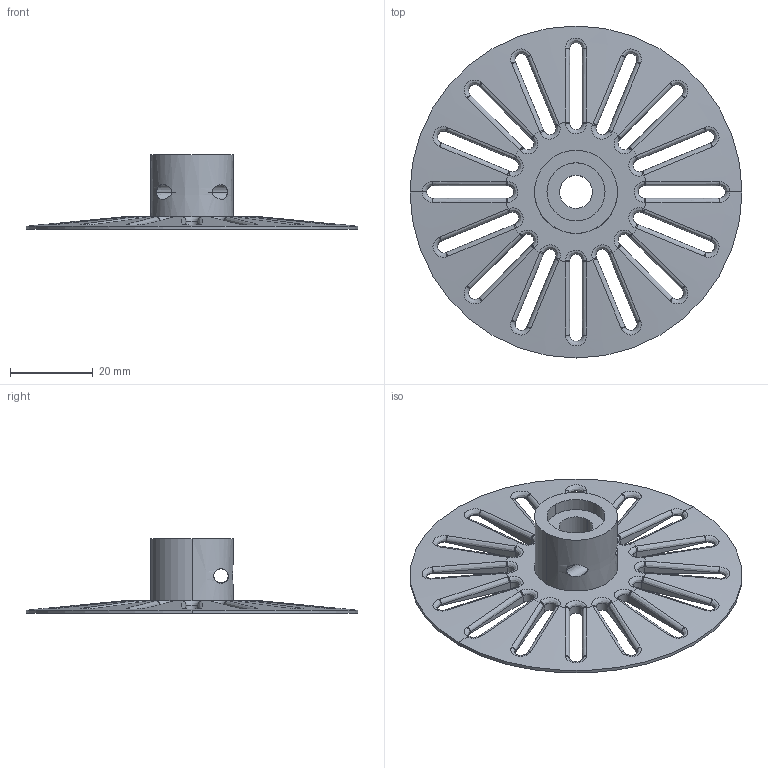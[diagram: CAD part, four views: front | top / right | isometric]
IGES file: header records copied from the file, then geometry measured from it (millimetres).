
Start section:  PTC IGES file: wirespool_btm.igs
Global section: file name: wirespool_btm.igs; native system: Creo Parametric by Parametric Technology Corporation; preprocessor: 2012130; author: GOC; organization: Unknown; date: 20141105.213336; units: millimetre
Bounding box: 80 x 80 x 18 mm (x, y, z)
Volume: 10906.8 mm3; surface area: 11025.1 mm2
Topology: 1 solids, 1 shells, 210 faces, 570 edges, 348 vertices
Faces by surface type: bspline 166, revolution 44
